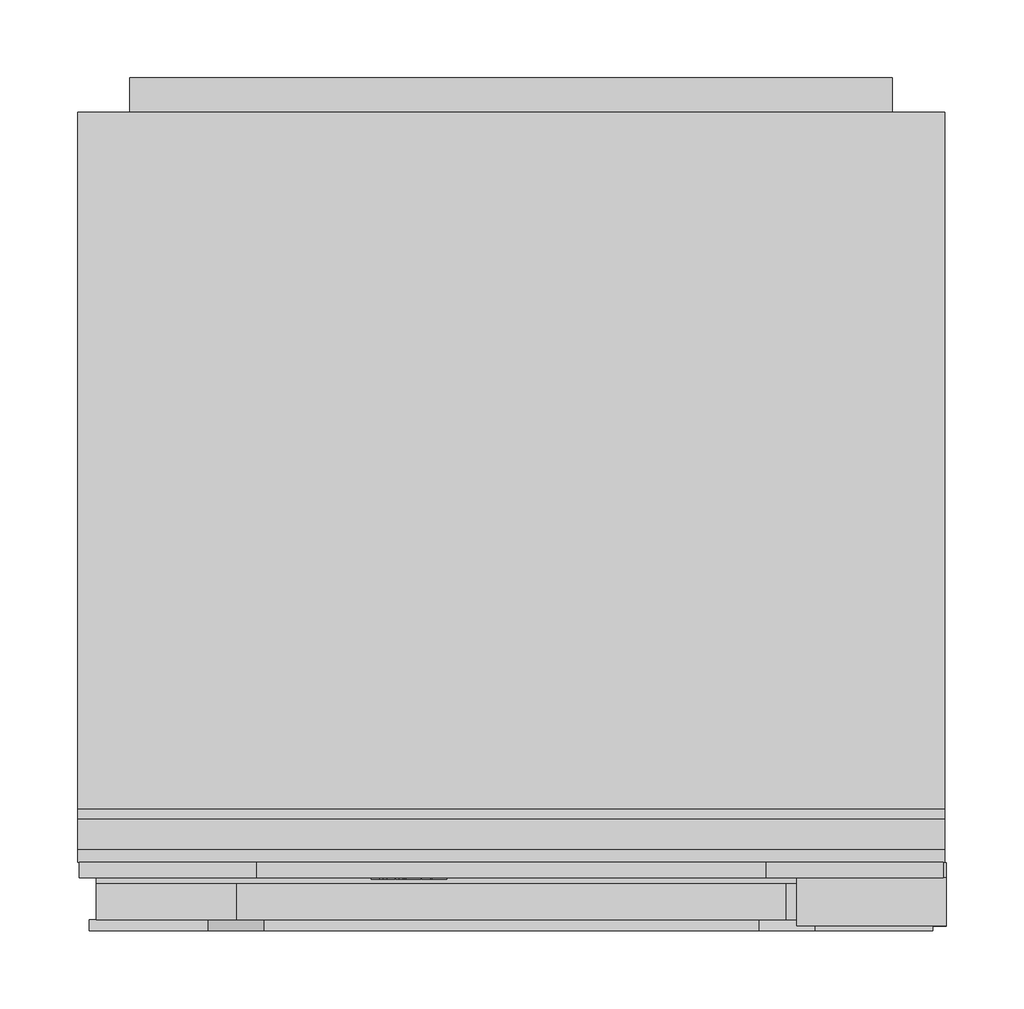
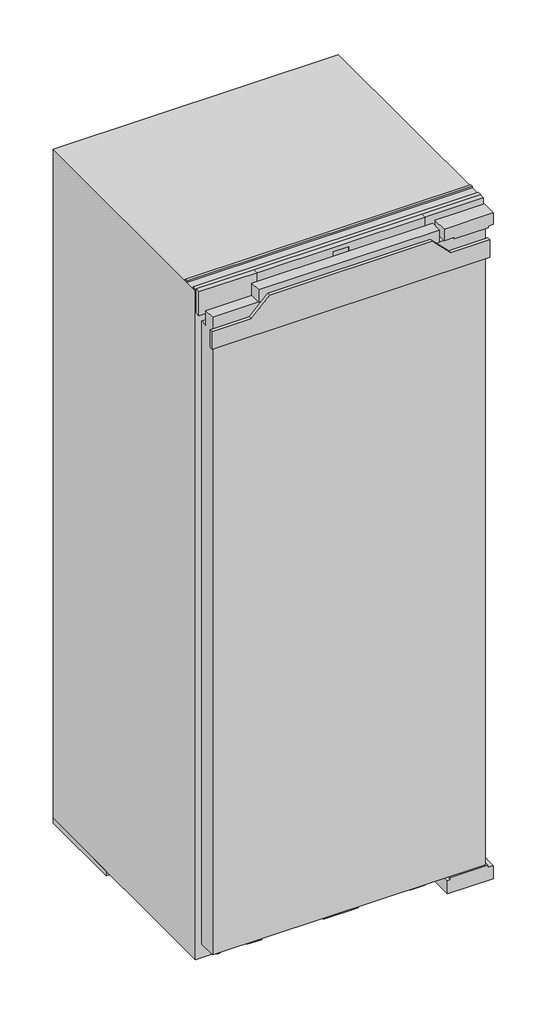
# Not in any storey: 1 proxy.
"""IFC4 building model written with IfcOpenShell, lengths in millimetres."""

from ifc_helpers import new_model, si_unit, origin, place, context, project, spatial, transform, mapped, element, save
from components import specialty_equipment_390eb75c

model = new_model("IFC4")

# Units and contexts
model_context = context("Model", 3, world=origin())
ifc_project = project(units=[si_unit("LENGTHUNIT", "METRE", prefix="MILLI")], contexts=[model_context])

# Site, building
site = spatial("IfcSite", under=ifc_project)
building = spatial("IfcBuilding", under=site)

# Proxy
placement = place(None, origin())
specialty_equipment_shape = specialty_equipment_390eb75c(model_context)
element("IfcBuildingElementProxy", 1, Name="11641340_EU1_K7444D : 36744400_EU1_11641340_K7444D", ObjectType="11641340_EU1_K7444D : 36744400_EU1_11641340_K7444D", at=placement, inside=building, context=model_context, shape_type="MappedRepresentation", body=[
    mapped(specialty_equipment_shape, transform((0.0, 0.0, 0.0), x_axis=(1.0, 0.0, 0.0), y_axis=(0.0, 1.0, 0.0), z_axis=(0.0, 0.0, 1.0))),
])

save(model, "model.ifc")
